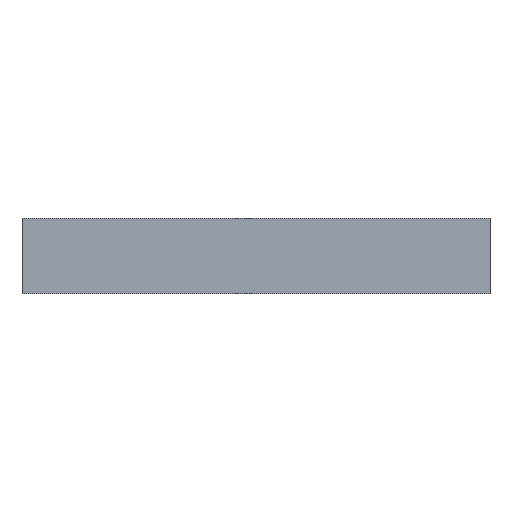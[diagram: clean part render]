
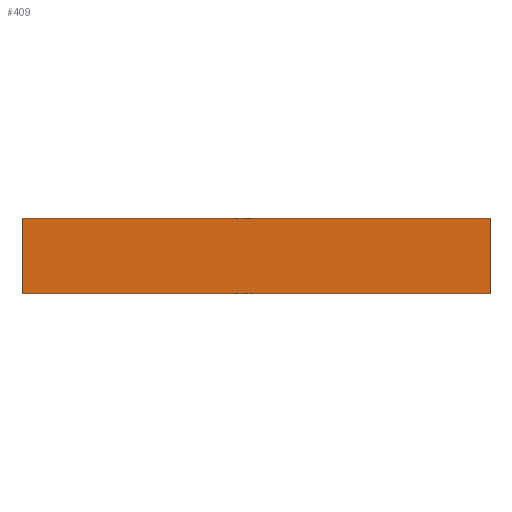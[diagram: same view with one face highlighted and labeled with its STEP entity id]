
A CAD part, front view. The second image highlights one B-rep face of the part: STEP entity #409.
In plain terms, the highlighted planar face has unit normal (0, -1, 0).
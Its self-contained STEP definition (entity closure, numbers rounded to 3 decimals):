
#33 = EDGE_CURVE ( 'NONE', #678, #680, #235, .T. ) ;
#43 = EDGE_CURVE ( 'NONE', #707, #665, #206, .T. ) ;
#53 = EDGE_CURVE ( 'NONE', #678, #707, #196, .T. ) ;
#82 = AXIS2_PLACEMENT_3D ( 'NONE', #486, #479, #478 ) ;
#91 = ORIENTED_EDGE ( 'NONE', *, *, #33, .F. ) ;
#111 = ORIENTED_EDGE ( 'NONE', *, *, #53, .T. ) ;
#117 = ORIENTED_EDGE ( 'NONE', *, *, #388, .F. ) ;
#123 = FACE_OUTER_BOUND ( 'NONE', #278, .T. ) ;
#145 = VECTOR ( 'NONE', #567, 1000. ) ;
#146 = LINE ( 'NONE', #571, #145 ) ;
#195 = VECTOR ( 'NONE', #637, 1000. ) ;
#196 = LINE ( 'NONE', #638, #195 ) ;
#205 = VECTOR ( 'NONE', #652, 1000. ) ;
#206 = LINE ( 'NONE', #654, #205 ) ;
#224 = VECTOR ( 'NONE', #679, 1000. ) ;
#235 = LINE ( 'NONE', #687, #224 ) ;
#278 = EDGE_LOOP ( 'NONE', ( #371, #117, #91, #111 ) ) ;
#371 = ORIENTED_EDGE ( 'NONE', *, *, #43, .T. ) ;
#388 = EDGE_CURVE ( 'NONE', #680, #665, #146, .T. ) ;
#409 = ADVANCED_FACE ( 'NONE', ( #123 ), #490, .F. ) ;
#438 = CARTESIAN_POINT ( 'NONE',  ( -201., 0., 0. ) ) ;
#448 = CARTESIAN_POINT ( 'NONE',  ( 201., 0., 65. ) ) ;
#449 = CARTESIAN_POINT ( 'NONE',  ( -201., 0., 65. ) ) ;
#453 = CARTESIAN_POINT ( 'NONE',  ( 201., 0., 0. ) ) ;
#478 = DIRECTION ( 'NONE',  ( -1., 0., 0. ) ) ;
#479 = DIRECTION ( 'NONE',  ( 0., 1., 0. ) ) ;
#486 = CARTESIAN_POINT ( 'NONE',  ( -201., 0., 65. ) ) ;
#490 = PLANE ( 'NONE',  #82 ) ;
#567 = DIRECTION ( 'NONE',  ( 0., 0., -1. ) ) ;
#571 = CARTESIAN_POINT ( 'NONE',  ( 201., 0., 65. ) ) ;
#637 = DIRECTION ( 'NONE',  ( 0., 0., -1. ) ) ;
#638 = CARTESIAN_POINT ( 'NONE',  ( -201., 0., 65. ) ) ;
#652 = DIRECTION ( 'NONE',  ( 1., 0., 0. ) ) ;
#654 = CARTESIAN_POINT ( 'NONE',  ( -201., 0., 0. ) ) ;
#665 = VERTEX_POINT ( 'NONE', #453 ) ;
#678 = VERTEX_POINT ( 'NONE', #449 ) ;
#679 = DIRECTION ( 'NONE',  ( 1., 0., 0. ) ) ;
#680 = VERTEX_POINT ( 'NONE', #448 ) ;
#687 = CARTESIAN_POINT ( 'NONE',  ( -201., 0., 65. ) ) ;
#707 = VERTEX_POINT ( 'NONE', #438 ) ;
